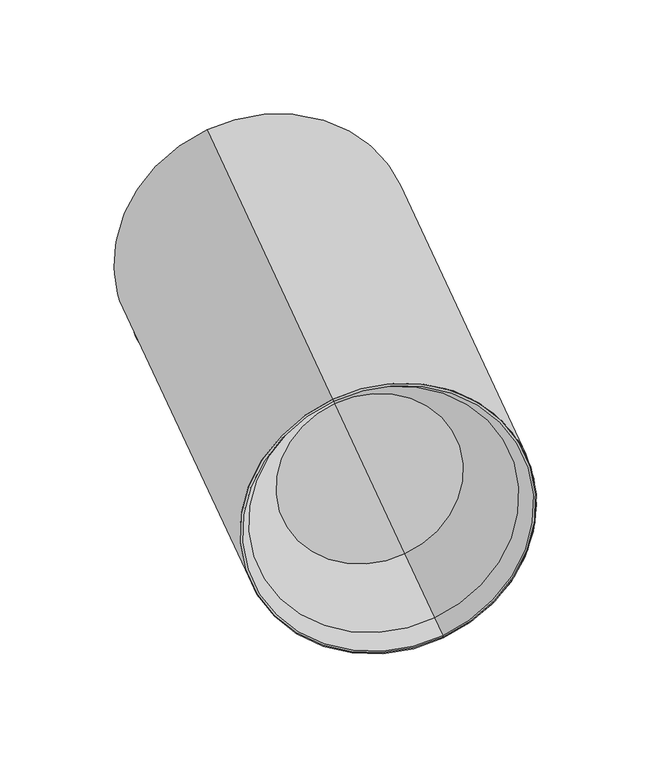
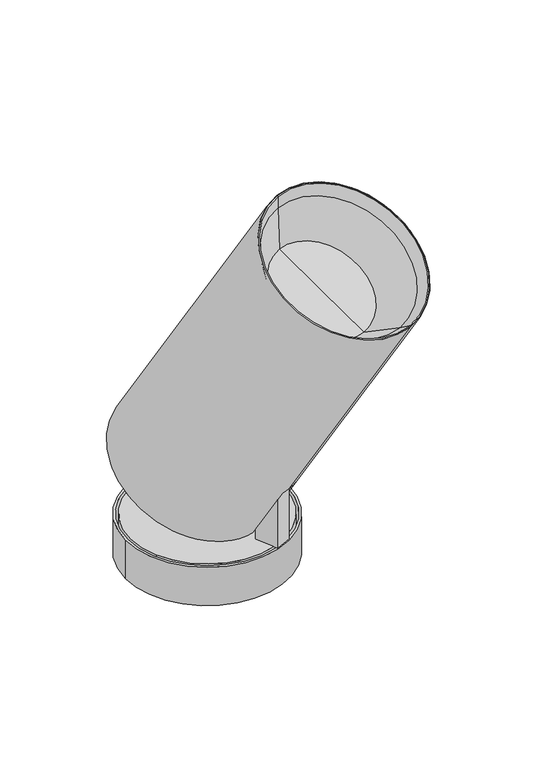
"""IFC4 building model written with IfcOpenShell, lengths in millimetres: light fixture geometry, PIPES C L : 2800 29W-830 62°."""

from ifc_helpers import new_model, si_unit, point, frame, frame_2d, origin, origin_with_axes, origin_2d, place, context, project, spatial, polyline, circle_curve, trimmed, segment, composite_curve, outline, extrude, source, transform, mapped, element, save
from ifc_brep_helpers import plane_surface, cylinder_surface, revolved_surface, advanced_brep


def light_fixture_f47f6631(model_context):
    return source(origin(), model_context, "Body", "SolidModel", [
        advanced_brep(
        [(29.792813, -44.961281, 92.5262794), (21.3404478, -26.8351253, 57.8852633), (27.7461302, -40.5721557, 49.1342867), (25.4217298, -35.5874628, 39.6080073), (26.1592491, -37.169078, 38.6004622), (36.9360148, -60.2799266, 82.7677578), (15.2918884, -51.7231732, 92.5262794), (22.4350902, -67.0418188, 82.7677578), (11.6583245, -43.9309702, 38.6004622), (10.9208052, -42.349355, 39.6080073), (13.2452057, -47.3340479, 49.1342867), (6.8395232, -33.5970175, 57.8852633), (14.0899855, -30.2160714, 57.8852633), (29.8623137, -64.0399385, 82.5262794), (25.348168, -54.3593218, 330.0255888), (74.0259221, -158.7491022, 263.5255888), (70.1850607, -150.5123484, 258.0544715), (25.2661799, -54.1834976, 319.4193728), (-29.592206, 63.4606905, 104.8589838), (-28.8602097, 61.8909194, 103.8589838), (-26.5358093, 56.9062266, 113.3852633), (-2.9289285, 6.2811075, 81.1352633), (25.8487931, -55.4329158, 283.9396195), (56.90823, -122.040093, 241.5084805), (41.3785116, -88.7365044, 262.72405)],
        [
            (0, 1),
            (1, 2),
            (2, 3),
            (3, 4),
            (4, 5),
            (5, 0),
            (6, 7),
            (7, 8),
            (8, 9),
            (9, 10),
            (10, 11),
            (11, 6),
            (0, 6),
            (11, 12),
            (12, 1),
            (5, 13, circle_curve(frame((5.5234367, -11.8450482, 115.7762794), z_axis=(-0.21130913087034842, 0.45315389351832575, -0.8660254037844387), x_axis=(0.3659981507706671, -0.7848855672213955, -0.5)), 66.5)),
            (13, 7, circle_curve(frame((5.5234367, -11.8450482, 115.7762794), z_axis=(-0.21130913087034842, 0.45315389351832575, -0.8660254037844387), x_axis=(0.3659981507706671, -0.7848855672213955, -0.5)), 66.5)),
            (14, 15, circle_curve(frame((49.6870451, -106.554212, 296.7755888), z_axis=(0.21130913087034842, -0.45315389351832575, 0.8660254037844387), x_axis=(0.3659981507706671, -0.7848855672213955, -0.5)), 66.5)),
            (15, 16),
            (16, 17, circle_curve(frame((47.7256203, -102.347923, 288.7369221), z_axis=(-0.21130913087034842, 0.45315389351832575, -0.8660254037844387), x_axis=(0.3659981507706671, -0.7848855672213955, -0.5)), 61.3649013)),
            (17, 14),
            (15, 14, circle_curve(frame((49.6870451, -106.554212, 296.7755888), z_axis=(0.21130913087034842, -0.45315389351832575, 0.8660254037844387), x_axis=(0.3659981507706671, -0.7848855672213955, -0.5)), 66.5)),
            (17, 16, circle_curve(frame((47.7256203, -102.347923, 288.7369221), z_axis=(-0.21130913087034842, 0.45315389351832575, -0.8660254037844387), x_axis=(0.3659981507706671, -0.7848855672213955, -0.5)), 61.3649013)),
            (14, 18),
            (18, 8, circle_curve(frame((-5.253329, 11.2658003, 71.6089838), z_axis=(0.21130913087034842, -0.45315389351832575, 0.8660254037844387), x_axis=(0.3659981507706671, -0.7848855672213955, -0.5)), 66.5)),
            (13, 15),
            (4, 18, circle_curve(frame((-5.253329, 11.2658003, 71.6089838), z_axis=(0.21130913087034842, -0.45315389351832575, 0.8660254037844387), x_axis=(0.3659981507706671, -0.7848855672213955, -0.5)), 66.5)),
            (18, 19),
            (19, 9, circle_curve(frame((-5.253329, 11.2658003, 71.6089838), z_axis=(0.21130913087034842, -0.45315389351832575, 0.8660254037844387), x_axis=(0.3659981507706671, -0.7848855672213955, -0.5)), 64.5)),
            (3, 19, circle_curve(frame((-5.253329, 11.2658003, 71.6089838), z_axis=(0.21130913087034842, -0.45315389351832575, 0.8660254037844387), x_axis=(0.3659981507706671, -0.7848855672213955, -0.5)), 64.5)),
            (19, 20),
            (20, 10, circle_curve(frame((-2.9289285, 6.2811075, 81.1352633), z_axis=(0.21130913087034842, -0.45315389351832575, 0.8660254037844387), x_axis=(0.3659981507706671, -0.7848855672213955, -0.5)), 64.5)),
            (2, 20, circle_curve(frame((-2.9289285, 6.2811075, 81.1352633), z_axis=(0.21130913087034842, -0.45315389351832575, 0.8660254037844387), x_axis=(0.3659981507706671, -0.7848855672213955, -0.5)), 64.5)),
            (20, 21),
            (21, 12),
            (22, 23, circle_curve(frame((41.3785116, -88.7365044, 262.72405), z_axis=(0.21130913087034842, -0.45315389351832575, 0.8660254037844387), x_axis=(0.3659981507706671, -0.7848855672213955, -0.5)), 42.431139)),
            (23, 24),
            (24, 22),
            (23, 22, circle_curve(frame((41.3785116, -88.7365044, 262.72405), z_axis=(0.21130913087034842, -0.45315389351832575, 0.8660254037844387), x_axis=(0.3659981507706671, -0.7848855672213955, -0.5)), 42.431139)),
            (16, 23),
            (22, 17),
        ],
        [
            plane_surface(frame((29.792813, -44.961281, 92.5262794), z_axis=(-0.9063077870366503, -0.42261826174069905, 0.0), x_axis=(0.21130913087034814, -0.4531538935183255, 0.8660254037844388))),
            plane_surface(frame((15.2918884, -51.7231732, 92.5262794), z_axis=(0.9063077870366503, 0.42261826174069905, 0.0), x_axis=(-0.21130913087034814, 0.4531538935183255, -0.8660254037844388))),
            plane_surface(frame((15.2918884, -51.7231732, 92.5262794), z_axis=(0.365998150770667, -0.7848855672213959, -0.4999999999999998), x_axis=(0.9063077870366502, 0.422618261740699, 0.0))),
            plane_surface(frame((24.4418422, -71.3453124, 80.0262794), z_axis=(-0.2113091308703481, 0.4531538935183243, -0.8660254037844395), x_axis=(0.9063077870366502, 0.422618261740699, 0.0))),
            revolved_surface(polyline([(70.1850607, -150.5123484, 258.0544715), (74.0259221, -158.7491022, 263.5255888)]), (-6.4054668, 13.736568, 66.8870834), (-0.21130913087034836, 0.45315389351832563, -0.8660254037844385)),
            cylinder_surface(frame((-6.4054668, 13.736568, 66.8870834), z_axis=(-0.21130913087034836, 0.45315389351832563, -0.8660254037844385), x_axis=(0.3659981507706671, -0.7848855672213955, -0.5)), 66.5),
            plane_surface(frame((-5.253329, 11.2658003, 71.6089838), z_axis=(-0.21130913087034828, 0.4531538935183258, -0.8660254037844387), x_axis=(0.36599815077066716, -0.7848855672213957, -0.5000000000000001))),
            revolved_surface(polyline([(18.353551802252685, -39.35931873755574, 39.35898380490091), (20.677952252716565, -44.34401158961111, 48.8852632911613)]), (-6.4054668, 13.736568, 66.8870834), (-0.21130913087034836, 0.45315389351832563, -0.8660254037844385)),
            plane_surface(frame((-2.9289285, 6.2811075, 81.1352633), z_axis=(-0.21130913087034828, 0.4531538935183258, -0.8660254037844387), x_axis=(0.36599815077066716, -0.7848855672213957, -0.5000000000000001))),
            plane_surface(frame((41.3785116, -88.7365044, 262.72405), z_axis=(0.21130913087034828, -0.4531538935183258, 0.8660254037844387), x_axis=(0.36599815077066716, -0.7848855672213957, -0.5000000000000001))),
            revolved_surface(polyline([(56.90823, -122.040093, 241.5084805), (70.1850607, -150.5123484, 258.0544715)]), (-6.4054668, 13.736568, 66.8870834), (-0.21130913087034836, 0.45315389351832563, -0.8660254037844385)),
        ],
        [
            (0, [[1, 2, 3, 4, 5, 6]]),
            (1, [[7, 8, 9, 10, 11, 12]]),
            (2, [[13, -12, 14, 15, -1]]),
            (3, [[-13, -6, 16, 17, -7]]),
            (4, [[18, 19, 20, 21]]),
            (4, [[-19, 22, -21, 23]]),
            (5, [[-18, 24, 25, -8, -17, 26]]),
            (5, [[-22, -26, -16, -5, 27, -24]]),
            (6, [[28, 29, -9, -25]]),
            (6, [[-28, -27, -4, 30]]),
            (7, [[31, 32, -10, -29]]),
            (7, [[-31, -30, -3, 33]]),
            (8, [[34, 35, -14, -11, -32]]),
            (8, [[-34, -33, -2, -15, -35]]),
            (9, [[36, 37, 38]]),
            (9, [[-37, 39, -38]]),
            (10, [[-20, 40, -36, 41]]),
            (10, [[-23, -41, -39, -40]]),
        ],
    ),
        advanced_brep(
        [(19.4386656, -22.7567402, 50.0910347), (19.0160473, -21.8504325, 48.3589838), (24.681507, -34.0000499, 40.6192458), (25.1041253, -34.9063577, 42.3512966), (4.5151227, -28.6123246, 48.3589838), (4.937741, -29.5186324, 50.0910347), (10.6032007, -41.6682499, 42.3512966), (10.1805824, -40.7619421, 40.6192458), (12.1882033, -26.1376863, 50.0910347), (11.765585, -25.2313786, 48.3589838), (-4.8307107, 10.3594925, 73.3410347), (-27.7032686, 59.4098513, 104.5878564), (-28.1258869, 60.3161591, 102.8558055), (-5.253329, 11.2658003, 71.6089838)],
        [
            (0, 1),
            (1, 2),
            (2, 3),
            (3, 0),
            (4, 5),
            (5, 6),
            (6, 7),
            (7, 4),
            (0, 8),
            (8, 5),
            (4, 9),
            (9, 1),
            (10, 11),
            (11, 6, circle_curve(frame((-4.8307107, 10.3594925, 73.3410347), z_axis=(0.21130913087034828, -0.45315389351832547, 0.8660254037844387), x_axis=(0.36599815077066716, -0.7848855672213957, -0.49999999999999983)), 62.4936434)),
            (8, 10),
            (3, 11, circle_curve(frame((-4.8307107, 10.3594925, 73.3410347), z_axis=(0.21130913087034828, -0.45315389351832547, 0.8660254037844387), x_axis=(0.36599815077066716, -0.7848855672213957, -0.49999999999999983)), 62.4936434)),
            (11, 12),
            (12, 7, circle_curve(frame((-5.253329, 11.2658003, 71.6089838), z_axis=(0.21130913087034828, -0.45315389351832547, 0.8660254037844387), x_axis=(0.36599815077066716, -0.7848855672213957, -0.49999999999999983)), 62.4936434)),
            (2, 12, circle_curve(frame((-5.253329, 11.2658003, 71.6089838), z_axis=(0.21130913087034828, -0.45315389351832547, 0.8660254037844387), x_axis=(0.36599815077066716, -0.7848855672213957, -0.49999999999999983)), 62.4936434)),
            (12, 13),
            (13, 9),
        ],
        [
            plane_surface(frame((29.792813, -44.961281, 92.5262794), z_axis=(-0.9063077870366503, -0.42261826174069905, 0.0), x_axis=(0.21130913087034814, -0.4531538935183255, 0.8660254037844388))),
            plane_surface(frame((15.2918884, -51.7231732, 92.5262794), z_axis=(0.9063077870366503, 0.42261826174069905, 0.0), x_axis=(-0.21130913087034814, 0.4531538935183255, -0.8660254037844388))),
            plane_surface(frame((15.2918884, -51.7231732, 92.5262794), z_axis=(0.365998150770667, -0.7848855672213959, -0.4999999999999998), x_axis=(0.9063077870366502, 0.422618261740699, 0.0))),
            plane_surface(frame((-4.8307107, 10.3594925, 73.3410347), z_axis=(0.21130913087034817, -0.4531538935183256, 0.8660254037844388), x_axis=(0.3659981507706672, -0.7848855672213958, -0.4999999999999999))),
            cylinder_surface(frame((-6.4054668, 13.736568, 66.8870834), z_axis=(-0.21130913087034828, 0.45315389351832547, -0.8660254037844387), x_axis=(0.36599815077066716, -0.7848855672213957, -0.49999999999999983)), 62.4936434),
            plane_surface(frame((-5.253329, 11.2658003, 71.6089838), z_axis=(-0.21130913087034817, 0.4531538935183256, -0.8660254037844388), x_axis=(0.3659981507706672, -0.7848855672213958, -0.4999999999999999))),
        ],
        [
            (0, [[1, 2, 3, 4]]),
            (1, [[5, 6, 7, 8]]),
            (2, [[-1, 9, 10, -5, 11, 12]]),
            (3, [[13, 14, -6, -10, 15]]),
            (3, [[-13, -15, -9, -4, 16]]),
            (4, [[17, 18, -7, -14]]),
            (4, [[-17, -16, -3, 19]]),
            (5, [[20, 21, -11, -8, -18]]),
            (5, [[-20, -19, -2, -12, -21]]),
        ],
    ),
        advanced_brep(
        [(25.348168, -54.3593218, 330.0255888), (74.0259221, -158.7491022, 263.5255888), (73.6076503, -157.8521154, 264.0970013), (25.7664399, -55.2563086, 329.4541764), (26.2620394, -56.3191252, 284.5297732), (56.917602, -122.0601914, 242.6503777), (41.5898207, -89.1896583, 263.5900754), (25.6889483, -55.0901274, 319.4296502), (69.977438, -150.0671001, 258.9259432), (25.2661799, -54.1834976, 319.4193728), (70.1850607, -150.5123484, 258.0544715), (25.8487931, -55.4329158, 283.9396195), (56.90823, -122.040093, 241.5084805), (41.3785116, -88.7365044, 262.72405)],
        [
            (0, 1, circle_curve(frame((49.6870451, -106.554212, 296.7755888), z_axis=(0.2113091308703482, -0.45315389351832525, 0.866025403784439), x_axis=(0.3659981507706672, -0.7848855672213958, -0.49999999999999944)), 66.5)),
            (1, 2),
            (2, 3, circle_curve(frame((49.6870451, -106.554212, 296.7755888), z_axis=(-0.2113091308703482, 0.45315389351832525, -0.866025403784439), x_axis=(0.3659981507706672, -0.7848855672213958, -0.49999999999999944)), 65.357175)),
            (3, 0),
            (1, 0, circle_curve(frame((49.6870451, -106.554212, 296.7755888), z_axis=(0.2113091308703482, -0.45315389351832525, 0.866025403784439), x_axis=(0.3659981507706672, -0.7848855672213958, -0.49999999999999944)), 66.5)),
            (3, 2, circle_curve(frame((49.6870451, -106.554212, 296.7755888), z_axis=(-0.2113091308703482, 0.45315389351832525, -0.866025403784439), x_axis=(0.3659981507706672, -0.7848855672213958, -0.49999999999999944)), 65.357175)),
            (4, 5, circle_curve(frame((41.5898207, -89.1896583, 263.5900754), z_axis=(0.2113091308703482, -0.45315389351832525, 0.866025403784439), x_axis=(0.3659981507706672, -0.7848855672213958, -0.49999999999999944)), 41.8793955)),
            (5, 6),
            (6, 4),
            (5, 4, circle_curve(frame((41.5898207, -89.1896583, 263.5900754), z_axis=(0.2113091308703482, -0.45315389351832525, 0.866025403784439), x_axis=(0.3659981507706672, -0.7848855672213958, -0.49999999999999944)), 41.8793955)),
            (7, 8, circle_curve(frame((47.8331931, -102.5786137, 289.1777967), z_axis=(0.2113091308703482, -0.45315389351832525, 0.866025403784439), x_axis=(0.3659981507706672, -0.7848855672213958, -0.49999999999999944)), 60.5037069)),
            (8, 5),
            (4, 7),
            (8, 7, circle_curve(frame((47.8331931, -102.5786137, 289.1777967), z_axis=(0.2113091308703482, -0.45315389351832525, 0.866025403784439), x_axis=(0.3659981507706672, -0.7848855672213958, -0.49999999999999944)), 60.5037069)),
            (9, 10, circle_curve(frame((47.7256203, -102.347923, 288.7369221), z_axis=(0.2113091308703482, -0.45315389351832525, 0.866025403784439), x_axis=(0.3659981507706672, -0.7848855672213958, -0.49999999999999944)), 61.3649013)),
            (10, 1),
            (0, 9),
            (10, 9, circle_curve(frame((47.7256203, -102.347923, 288.7369221), z_axis=(0.2113091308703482, -0.45315389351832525, 0.866025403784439), x_axis=(0.3659981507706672, -0.7848855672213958, -0.49999999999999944)), 61.3649013)),
            (11, 12, circle_curve(frame((41.3785116, -88.7365044, 262.72405), z_axis=(0.2113091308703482, -0.45315389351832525, 0.866025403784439), x_axis=(0.3659981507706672, -0.7848855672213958, -0.49999999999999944)), 42.431139)),
            (12, 10),
            (9, 11),
            (12, 11, circle_curve(frame((41.3785116, -88.7365044, 262.72405), z_axis=(0.2113091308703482, -0.45315389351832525, 0.866025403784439), x_axis=(0.3659981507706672, -0.7848855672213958, -0.49999999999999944)), 42.431139)),
            (13, 12),
            (11, 13),
            (2, 8),
            (7, 3),
        ],
        [
            plane_surface(frame((49.6870451, -106.554212, 296.7755888), z_axis=(0.211309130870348, -0.45315389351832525, 0.8660254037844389), x_axis=(0.3659981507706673, -0.7848855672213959, -0.4999999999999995))),
            plane_surface(frame((41.5898207, -89.1896583, 263.5900754), z_axis=(0.211309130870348, -0.45315389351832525, 0.8660254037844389), x_axis=(0.3659981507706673, -0.7848855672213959, -0.4999999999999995))),
            revolved_surface(polyline([(56.917602, -122.0601914, 242.6503777), (69.977438, -150.0671001, 258.9259432)]), (-6.4054668, 13.736568, 66.8870834), (-0.21130913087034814, 0.45315389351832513, -0.8660254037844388)),
            revolved_surface(polyline([(74.0259221, -158.7491022, 263.5255888), (70.1850607, -150.5123484, 258.0544715)]), (-6.4054668, 13.736568, 66.8870834), (-0.21130913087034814, 0.45315389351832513, -0.8660254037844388)),
            revolved_surface(polyline([(70.1850607, -150.5123484, 258.0544715), (56.90823, -122.040093, 241.5084805)]), (-6.4054668, 13.736568, 66.8870834), (-0.21130913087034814, 0.45315389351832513, -0.8660254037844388)),
            plane_surface(frame((41.3785116, -88.7365044, 262.72405), z_axis=(-0.211309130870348, 0.45315389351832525, -0.8660254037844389), x_axis=(0.3659981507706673, -0.7848855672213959, -0.4999999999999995))),
            revolved_surface(polyline([(69.977438, -150.0671001, 258.9259432), (73.6076503, -157.8521154, 264.0970013)]), (-6.4054668, 13.736568, 66.8870834), (-0.21130913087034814, 0.45315389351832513, -0.8660254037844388)),
        ],
        [
            (0, [[1, 2, 3, 4]]),
            (0, [[5, -4, 6, -2]]),
            (1, [[7, 8, 9]]),
            (1, [[10, -9, -8]]),
            (2, [[11, 12, -7, 13]]),
            (2, [[14, -13, -10, -12]]),
            (3, [[15, 16, -1, 17]]),
            (3, [[18, -17, -5, -16]]),
            (4, [[19, 20, -15, 21]]),
            (4, [[22, -21, -18, -20]]),
            (5, [[23, -19, 24]]),
            (5, [[-24, -22, -23]]),
            (6, [[-3, 25, -11, 26]]),
            (6, [[-6, -26, -14, -25]]),
        ],
    ),
        extrude(outline(composite_curve([segment(trimmed(circle_curve(origin_2d(), 62.5), [point((-56.6442367, -26.4136414))], [point((56.6442367, 26.4136414))], False, "CARTESIAN"), True, "CONTINUOUS"), segment(trimmed(circle_curve(origin_2d(), 62.5), [point((56.6442367, 26.4136414))], [point((-56.6442367, -26.4136414))], False, "CARTESIAN"), True, "CONTINUOUS")], self_intersect=False)), origin_with_axes(), (0.0, 0.0, 1.0), 33.0),
        extrude(outline(composite_curve([segment(polyline([(0.2983896, -17.0947278), (-46.2490169, -17.0947278), (-46.2490169, 1.8978256), (7.5438399, 1.8978256), (7.5438399, -0.6021744), (9.7509831, -0.6021744), (8.4667604, -9.7398937)]), True, "CONTINUOUS"), segment(trimmed(circle_curve(frame_2d((0.0, -8.5499681)), 8.5499681), [point((8.4667604, -9.7398937))], [point((0.2983896, -17.0947278))], False, "CARTESIAN"), True, "CONTINUOUS")], self_intersect=False)), frame((20.5352859, -60.6014738, 79.2490169), z_axis=(0.9063077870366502, 0.422618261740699, 0.0), x_axis=(0.0, 0.0, 1.0)), (0.0, 0.0, 1.0), 14.0),
        extrude(outline(composite_curve([segment(trimmed(circle_curve(origin_2d(), 66.5), [point((-66.5, 0.0))], [point((66.5, 0.0))], False, "CARTESIAN"), True, "CONTINUOUS"), segment(trimmed(circle_curve(origin_2d(), 66.5), [point((66.5, 0.0))], [point((-66.5, 0.0))], False, "CARTESIAN"), True, "CONTINUOUS")], self_intersect=False), holes=[composite_curve([segment(trimmed(circle_curve(origin_2d(), 64.5), [point((-64.5, 0.0))], [point((64.5, 0.0))], True, "CARTESIAN"), True, "CONTINUOUS"), segment(trimmed(circle_curve(origin_2d(), 64.5), [point((64.5, 0.0))], [point((-64.5, 0.0))], True, "CARTESIAN"), True, "CONTINUOUS")], self_intersect=False)]), origin_with_axes(), (0.0, 0.0, 1.0), 33.0),
    ])


if __name__ == "__main__":
    model = new_model("IFC4")
    model_context = context("Model", 3, world=origin())
    ifc_project = project(units=[si_unit("LENGTHUNIT", "METRE", prefix="MILLI")], contexts=[model_context])
    site = spatial("IfcSite", under=ifc_project)
    building = spatial("IfcBuilding", under=site)
    placement = place(None, origin())
    light_fixture_shape = light_fixture_f47f6631(model_context)
    element("IfcLightFixture", 1, ObjectType="PIPES C L : 2800 29W-830 62°", at=placement, inside=building, context=model_context, shape_type="MappedRepresentation", body=[
        mapped(light_fixture_shape, transform((0.0, 0.0, 0.0), x_axis=(1.0, 0.0, 0.0), y_axis=(0.0, 1.0, 0.0), z_axis=(0.0, 0.0, 1.0))),
    ])
    save(model, "model.ifc")
